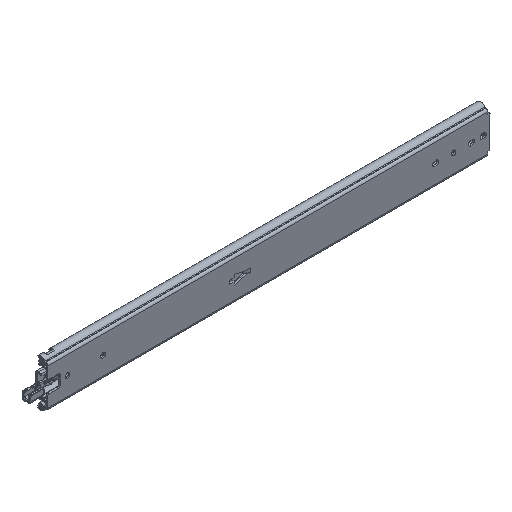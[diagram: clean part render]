
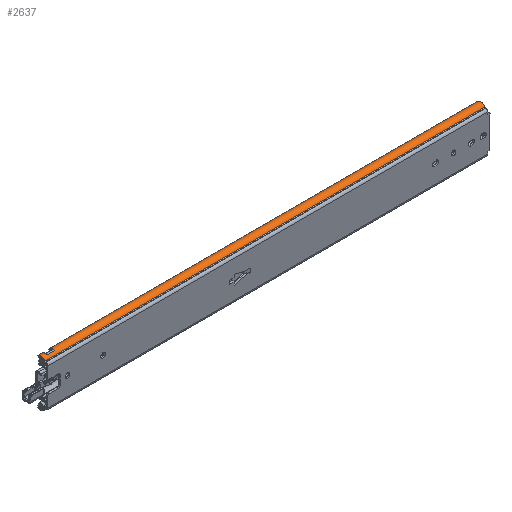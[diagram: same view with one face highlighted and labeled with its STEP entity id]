
A CAD part, isometric view. The second image highlights one B-rep face of the part: STEP entity #2637.
In plain terms, the highlighted cylindrical face has radius 7.25 mm (diameter 14.5 mm), a partial arc.
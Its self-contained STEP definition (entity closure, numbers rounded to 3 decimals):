
#5=CARTESIAN_POINT('',(0.,16.079,36.021));
#6=CARTESIAN_POINT('',(0.,15.489,36.501));
#7=CARTESIAN_POINT('',(0.,14.228,37.235));
#8=CARTESIAN_POINT('',(0.,12.05,37.743));
#9=CARTESIAN_POINT('',(0.,9.839,37.57));
#10=CARTESIAN_POINT('',(0.,7.778,36.754));
#11=CARTESIAN_POINT('',(0.,6.044,35.337));
#12=CARTESIAN_POINT('',(0.,5.235,34.131));
#13=CARTESIAN_POINT('',(0.,4.911,33.428));
#346=CARTESIAN_POINT('',(706.2,4.916,33.436));
#348=CARTESIAN_POINT('',(706.2,11.5,30.4));
#349=DIRECTION('',(-1.,0.,0.));
#350=DIRECTION('',(0.,-0.908,0.419));
#351=AXIS2_PLACEMENT_3D('',#348,#349,#350);
#357=CARTESIAN_POINT('',(0.,16.079,
36.021));
#358=CARTESIAN_POINT('',(0.465,16.446,35.722));
#359=CARTESIAN_POINT('',(0.932,16.779,35.392));
#360=CARTESIAN_POINT('',(1.401,17.079,35.031));
#362=DIRECTION('',(1.,0.,0.));
#363=VECTOR('',#362,6.099);
#364=CARTESIAN_POINT('',(1.401,17.079,35.031));
#365=LINE('',#364,#363);
#366=DIRECTION('',(1.,0.,0.));
#367=VECTOR('',#366,685.365);
#368=CARTESIAN_POINT('',(19.5,17.079,35.031));
#369=LINE('',#368,#367);
#370=CARTESIAN_POINT('',(704.865,17.079,35.031));
#371=CARTESIAN_POINT('',(705.158,16.877,35.273));
#372=CARTESIAN_POINT('',(705.646,16.409,35.775));
#373=CARTESIAN_POINT('',(706.107,15.442,36.529));
#374=CARTESIAN_POINT('',(706.2,14.673,36.934));
#375=CARTESIAN_POINT('',(706.2,14.255,37.106));
#377=DIRECTION('',(-1.,0.,0.));
#378=VECTOR('',#377,706.2);
#379=CARTESIAN_POINT('',(706.2,4.916,33.436));
#380=LINE('',#379,#378);
#397=CARTESIAN_POINT('',(7.5,11.5,30.4));
#398=DIRECTION('',(-1.,0.,0.));
#399=DIRECTION('',(0.,-0.412,0.911));
#400=AXIS2_PLACEMENT_3D('',#397,#398,#399);
#433=DIRECTION('',(-1.,0.,0.));
#434=VECTOR('',#433,12.);
#435=CARTESIAN_POINT('',(19.5,8.515,37.007));
#436=LINE('',#435,#434);
#521=CARTESIAN_POINT('',(19.5,11.5,30.4));
#522=DIRECTION('',(1.,0.,0.));
#523=DIRECTION('',(0.,0.769,0.639));
#524=AXIS2_PLACEMENT_3D('',#521,#522,#523);
#1802=CARTESIAN_POINT('',(0.,16.079,
36.021));
#1804=VERTEX_POINT('',#1802);
#1805=VERTEX_POINT('',#13);
#1859=CARTESIAN_POINT('',(1.401,17.079,35.031));
#1860=VERTEX_POINT('',#1859);
#2128=CARTESIAN_POINT('',(706.2,14.255,37.106));
#2129=VERTEX_POINT('',#2128);
#2134=VERTEX_POINT('',#346);
#2149=VERTEX_POINT('',#370);
#2154=CARTESIAN_POINT('',(7.5,17.079,35.031));
#2155=VERTEX_POINT('',#2154);
#2156=CARTESIAN_POINT('',(7.5,8.515,37.007));
#2157=VERTEX_POINT('',#2156);
#2158=CARTESIAN_POINT('',(19.5,8.515,37.007));
#2159=VERTEX_POINT('',#2158);
#2160=CARTESIAN_POINT('',(19.5,17.079,35.031));
#2161=VERTEX_POINT('',#2160);
#2614=CARTESIAN_POINT('',(0.,11.5,30.4));
#2615=DIRECTION('',(1.,0.,0.));
#2616=DIRECTION('',(0.,-1.,0.));
#2617=AXIS2_PLACEMENT_3D('',#2614,#2615,#2616);
#2618=CYLINDRICAL_SURFACE('',#2617,7.25);
#2619=ORIENTED_EDGE('',*,*,#2359,.T.);
#2621=ORIENTED_EDGE('',*,*,#2620,.T.);
#2623=ORIENTED_EDGE('',*,*,#2622,.F.);
#2625=ORIENTED_EDGE('',*,*,#2624,.F.);
#2627=ORIENTED_EDGE('',*,*,#2626,.F.);
#2629=ORIENTED_EDGE('',*,*,#2628,.T.);
#2630=ORIENTED_EDGE('',*,*,#2601,.T.);
#2631=ORIENTED_EDGE('',*,*,#2591,.F.);
#2633=ORIENTED_EDGE('',*,*,#2632,.T.);
#2634=ORIENTED_EDGE('',*,*,#2313,.F.);
#2635=EDGE_LOOP('',(#2619,#2621,#2623,#2625,#2627,#2629,#2630,#2631,#2633,
#2634));
#2636=FACE_OUTER_BOUND('',#2635,.F.);
#14=B_SPLINE_CURVE_WITH_KNOTS('',3,(#5,#6,#7,#8,#9,#10,#11,#12,#13),
.UNSPECIFIED.,.F.,.F.,(4,1,1,1,1,1,4),(0.,0.167,0.333,
0.5,0.667,0.833,1.),.UNSPECIFIED.);
#352=CIRCLE('',#351,7.25);
#361=B_SPLINE_CURVE_WITH_KNOTS('',3,(#357,#358,#359,#360),.UNSPECIFIED.,.F.,.F.,
(4,4),(0.,1.),.UNSPECIFIED.);
#376=B_SPLINE_CURVE_WITH_KNOTS('',3,(#370,#371,#372,#373,#374,#375),
.UNSPECIFIED.,.F.,.F.,(4,1,1,4),(0.,0.333,0.667,1.),
.UNSPECIFIED.);
#401=CIRCLE('',#400,7.25);
#525=CIRCLE('',#524,7.25);
#2313=EDGE_CURVE('',#1804,#1805,#14,.T.);
#2359=EDGE_CURVE('',#1804,#1860,#361,.T.);
#2591=EDGE_CURVE('',#2134,#2129,#352,.T.);
#2601=EDGE_CURVE('',#2149,#2129,#376,.T.);
#2620=EDGE_CURVE('',#1860,#2155,#365,.T.);
#2622=EDGE_CURVE('',#2157,#2155,#401,.T.);
#2624=EDGE_CURVE('',#2159,#2157,#436,.T.);
#2626=EDGE_CURVE('',#2161,#2159,#525,.T.);
#2628=EDGE_CURVE('',#2161,#2149,#369,.T.);
#2632=EDGE_CURVE('',#2134,#1805,#380,.T.);
#2637=ADVANCED_FACE('',(#2636),#2618,.T.);
